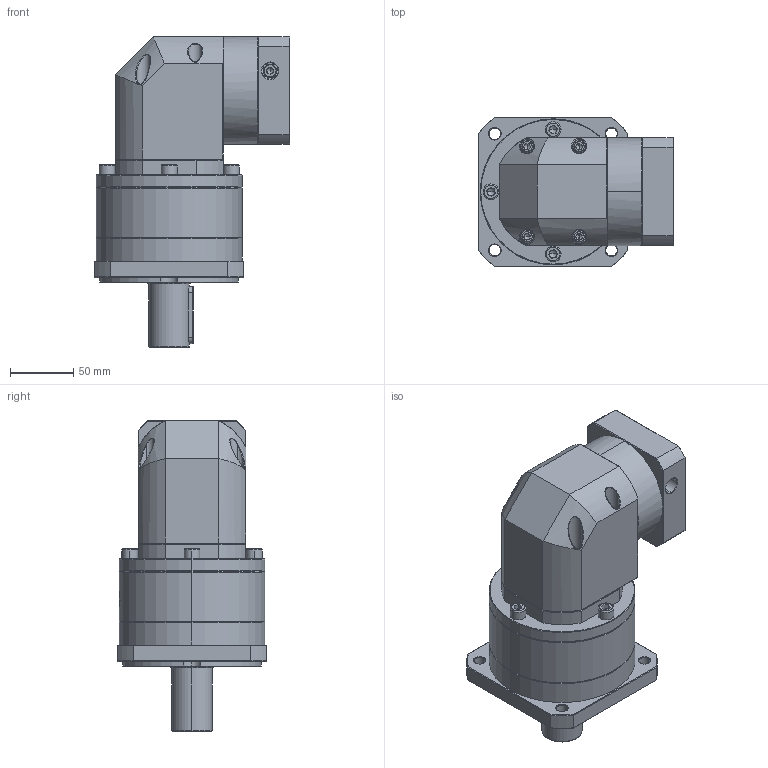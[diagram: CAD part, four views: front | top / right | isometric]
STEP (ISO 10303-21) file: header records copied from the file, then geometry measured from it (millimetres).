
FILE_DESCRIPTION (( 'STEP AP214' ), '1' );
FILE_NAME ('ZFR120A-D32-L2-P2-14-60-75-M6.step', '2023-08-27T09:18:16', ( '' ), ( '' ), 'SwSTEP 2.0', 'SolidWorks 2016', '' );
FILE_SCHEMA (( 'AUTOMOTIVE_DESIGN' ));
Length unit declared in the file: millimetre
Products named in the file (1): ZFR120A-D32-L2-P2-14-60-75-M6
Bounding box: 154.1 x 118 x 245 mm (x, y, z)
Volume: 1876002.8 mm3; surface area: 171734.6 mm2
Topology: 6 solids, 6 shells, 2409 faces, 6288 edges, 3984 vertices
Faces by surface type: plane 1174, cylinder 456, bspline 443, cone 322, torus 14
Entity records: 130477 total; most frequent: CARTESIAN_POINT 50586, ORIENTED_EDGE 12484, DIRECTION 9199, EDGE_CURVE 6242, VERTEX_POINT 3984, VECTOR 3383, LINE 3383, AXIS2_PLACEMENT_3D 2908
